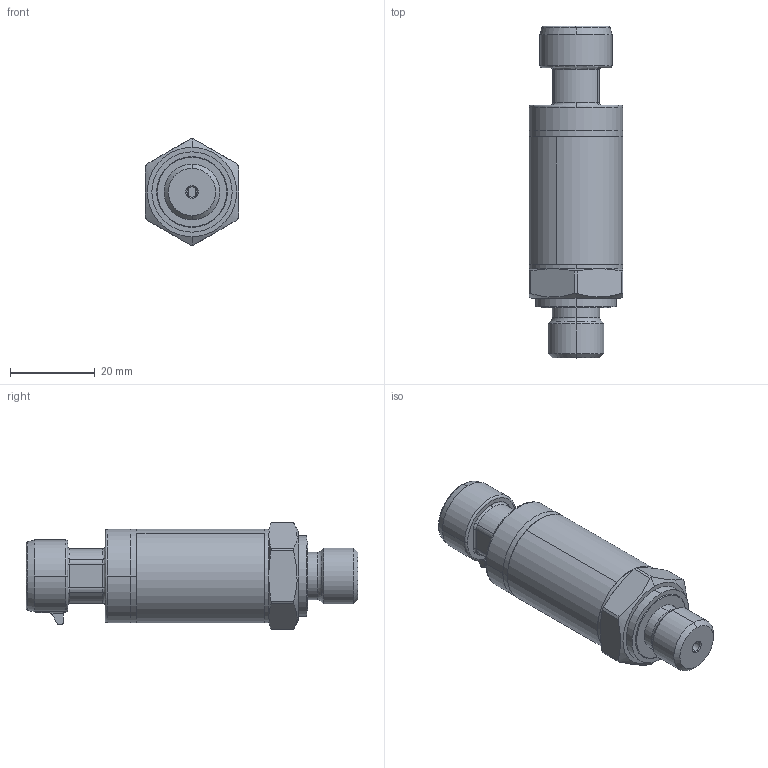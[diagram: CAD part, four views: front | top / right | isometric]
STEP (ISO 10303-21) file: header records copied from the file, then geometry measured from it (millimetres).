
FILE_DESCRIPTION (( 'STEP AP203' ), '1' );
FILE_NAME ('KH_Metripack.STEP', '2016-03-03T15:41:48', ( '' ), ( '' ), 'SwSTEP 2.0', 'SolidWorks 2015', '' );
FILE_SCHEMA (( 'CONFIG_CONTROL_DESIGN' ));
Length unit declared in the file: millimetre
Products named in the file (1): KH_Metripack
Bounding box: 22 x 78.1 x 25 mm (x, y, z)
Volume: 11575.8 mm3; surface area: 12446.2 mm2
Topology: 8 solids, 8 shells, 425 faces, 1071 edges, 688 vertices
Faces by surface type: plane 203, cylinder 118, cone 48, bspline 44, torus 12
Entity records: 15113 total; most frequent: CARTESIAN_POINT 4986, ORIENTED_EDGE 2142, DIRECTION 2006, EDGE_CURVE 1071, AXIS2_PLACEMENT_3D 702, VERTEX_POINT 688, LINE 602, VECTOR 602
